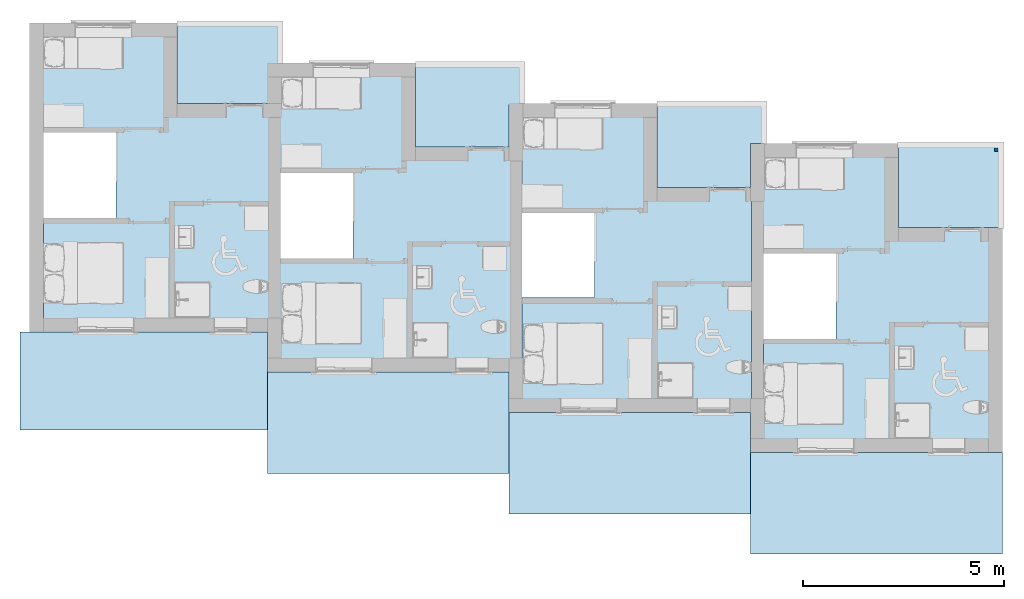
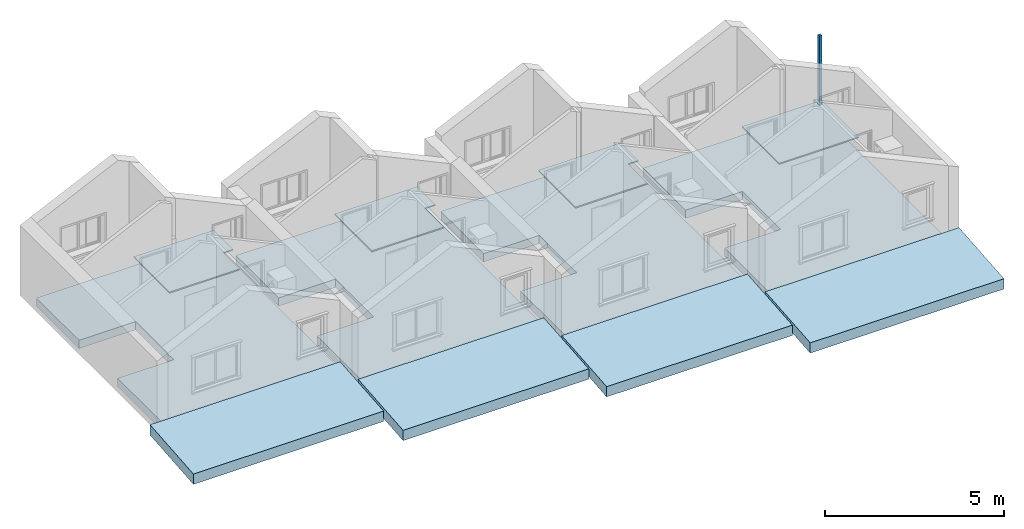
# One storey, part 1 of 44: 12 slabs, 1 column, 4 elements without a shape of their own.
"""IFC2X3 building model written with IfcOpenShell, lengths in millimetres."""

from ifc_helpers import new_model, entity, si_unit, converted_unit, direction, frame, frame_2d, origin, origin_2d_with_axis, place, context, subcontext, project, spatial, polyline, rectangle, outline, extrude, source, transform, mapped, material, layer, layer_set, layer_usage, type_object, type_shapes, element, aggregate, save


model = new_model("IFC2X3")

# Units and contexts
model_context = context("Model", 3, precision=0.01, world=origin(), true_north=direction((0.0, 1.0)))
body_context = subcontext(model_context, "Body", "Model", "MODEL_VIEW")
ifc_project = project(units=[si_unit("LENGTHUNIT", "METRE", prefix="MILLI"), si_unit("AREAUNIT", "SQUARE_METRE"), si_unit("VOLUMEUNIT", "CUBIC_METRE"), converted_unit("PLANEANGLEUNIT", "DEGREE", entity("IfcPlaneAngleMeasure", 0.017453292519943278), si_unit("PLANEANGLEUNIT", "RADIAN"), dimensions=[0, 0, 0, 0, 0, 0, 0])], contexts=[model_context])

# Site, building, storey
site_placement = place(None, origin())
site = spatial("IfcSite", under=ifc_project, at=site_placement, Name="Default", CompositionType="ELEMENT")
building_placement = place(site_placement, origin())
building = spatial("IfcBuilding", under=site, at=building_placement, CompositionType="ELEMENT")
storey_placement = place(building_placement, frame((0.0, 0.0, 2681.0)))
storey = spatial("IfcBuildingStorey", under=building, at=storey_placement, Name="Et. 2", CompositionType="ELEMENT", Elevation=2681.0)

# Column
ifc_material_1 = material(Name="Limtre - GL30c")
column_type = type_object("IfcColumnType", Name="Limtre-søyle:Limtre 90x90", PredefinedType="COLUMN", material=ifc_material_1)
shared_shape = source(origin(), body_context, "Body", "SweptSolid", [
    extrude(rectangle(XDim=90.0, YDim=90.0, at=origin_2d_with_axis()), frame((0.0, 0.0, 2681.0), z_axis=(0.0, 0.0, 1.0), x_axis=(-1.0, 0.0, 0.0)), (0.0, 0.0, 1.0), 2400.0),
])
type_shapes(column_type, [shared_shape])
column_placement = place(storey_placement, frame((34112.009586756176, 15929.180957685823, -2681.0)))
element("IfcColumn", 1, at=column_placement, inside=storey, type_object=column_type, material=ifc_material_1, Name="Limtre-søyle:Limtre 90x90", context=body_context, shape_type="MappedRepresentation", body=[
    mapped(shared_shape, transform((0.0, 0.0, 0.0), scale=1.0)),
])

# Slabs
ifc_material_2 = material(Name="Dekke - Spon")
ifc_layer_1 = layer(ifc_material_2, 22.0)
ifc_material_3 = material(Name="Dekke - Bjelke tre - Isolert")
ifc_layer_2 = layer(ifc_material_3, 223.0)
ifc_material_4 = material(Name="Dekke - Luftskikt")
ifc_layer_3 = layer(ifc_material_4, 23.0)
ifc_material_5 = material(Name="Dekke - Gips")
ifc_layer_4 = layer(ifc_material_5, 13.000000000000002)
ifc_layer_set_1 = layer_set([ifc_layer_1, ifc_layer_2, ifc_layer_3, ifc_layer_4], Name="Floor:25-Etasjeskille SpTISp-22_223_23_13")
ifc_layer_usage_1 = layer_usage(ifc_layer_set_1, "AXIS3", "POSITIVE", 0.0)
slab_type_1 = type_object("IfcSlabType", Name="Floor:25-Etasjeskille SpTISp-22_223_23_13", PredefinedType="FLOOR", material=ifc_layer_set_1)
slab_1_placement = place(storey_placement, origin())
element("IfcSlab", 2, at=slab_1_placement, inside=storey, type_object=slab_type_1, material=ifc_layer_usage_1, Name="Floor:25-Etasjeskille SpTISp-22_223_23_13", PredefinedType="FLOOR", context=body_context, shape_type="SweptSolid", body=[
    extrude(outline(polyline([(1092.75868209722, -1867.838043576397), (3481.7878521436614, -1867.838043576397), (3481.7878521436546, 3766.161956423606), (-3526.2121478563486, 3766.161956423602), (-3526.212147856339, -1854.8380435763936), (-1048.3343863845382, -1854.8380435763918), (-1048.3343863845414, -43.48586927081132), (1092.7586820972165, -43.48586927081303), (1092.75868209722, -1867.838043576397)])), frame((12291.8476303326, 15267.39310554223, 0.0), z_axis=(0.0, 0.0, -1.0), x_axis=(0.0, 1.0, 0.0)), (0.0, 0.0, 1.0), 281.0),
])
ifc_layer_usage_2 = layer_usage(ifc_layer_set_1, "AXIS3", "POSITIVE", 0.0)
slab_2_placement = place(storey_placement, origin())
element("IfcSlab", 3, at=slab_2_placement, inside=storey, type_object=slab_type_1, material=ifc_layer_usage_2, Name="Floor:25-Etasjeskille SpTISp-22_223_23_13", PredefinedType="FLOOR", context=body_context, shape_type="SweptSolid", body=[
    extrude(outline(polyline([(1089.780559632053, -1895.8852813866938), (3482.780559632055, -1895.8852813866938), (3482.780559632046, 3851.1147186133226), (-3525.2194403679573, 3851.114718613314), (-3525.219440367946, -1895.8852813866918), (-1047.3416788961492, -1895.8852813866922), (-1047.3416788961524, -59.34415583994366), (1089.7805596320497, -59.34415583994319), (1089.780559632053, -1895.8852813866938)])), frame((18193.894868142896, 14266.400398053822, 0.0), z_axis=(0.0, 0.0, -1.0), x_axis=(0.0, 1.0, 0.0)), (0.0, 0.0, 1.0), 281.0),
])
ifc_layer_usage_3 = layer_usage(ifc_layer_set_1, "AXIS3", "POSITIVE", 0.0)
slab_3_placement = place(storey_placement, origin())
element("IfcSlab", 4, at=slab_3_placement, inside=storey, type_object=slab_type_1, material=ifc_layer_usage_3, Name="Floor:25-Etasjeskille SpTISp-22_223_23_13", PredefinedType="FLOOR", context=body_context, shape_type="SweptSolid", body=[
    extrude(outline(polyline([(-3534.922438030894, -1883.2832941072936), (-1018.2326859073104, -1883.2832941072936), (-1018.2326859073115, -72.15011767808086), (1080.0775619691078, -72.15011767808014), (1080.077561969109, -1869.2832941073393), (3473.0775619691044, -1869.2832941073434), (3473.0775619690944, 3824.7167058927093), (-3534.9224380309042, 3824.716705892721), (-3534.922438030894, -1883.2832941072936)])), frame((24207.292880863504, 13276.103395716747, 0.0), z_axis=(0.0, 0.0, -1.0), x_axis=(0.0, 1.0, 0.0)), (0.0, 0.0, 1.0), 281.0),
])
ifc_layer_usage_4 = layer_usage(ifc_layer_set_1, "AXIS3", "POSITIVE", 0.0)
slab_4_placement = place(storey_placement, origin())
element("IfcSlab", 5, at=slab_4_placement, inside=storey, type_object=slab_type_1, material=ifc_layer_usage_4, Name="Floor:25-Etasjeskille SpTISp-22_223_23_13", PredefinedType="FLOOR", context=body_context, shape_type="SweptSolid", body=[
    extrude(outline(polyline([(1096.2805596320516, -1874.338043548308), (3476.28055963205, -1874.338043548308), (3476.2805596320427, 3759.6619564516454), (-3531.7194403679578, 3759.6619564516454), (-3531.71944036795, -1848.33804354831), (-1040.8416788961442, -1848.3380435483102), (-1040.8416788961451, -36.98586935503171), (1096.2805596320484, -36.985869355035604), (1096.2805596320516, -1874.338043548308)])), frame((30172.347630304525, 12272.900398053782, 0.0), z_axis=(0.0, 0.0, -1.0), x_axis=(0.0, 1.0, 0.0)), (0.0, 0.0, 1.0), 281.0),
])

# Roof, slab
ifc_material_6 = material(Name="Tak - Takstein - Sort")
ifc_layer_5 = layer(ifc_material_6, 30.0)
ifc_material_7 = material(Name="Default Roof")
ifc_layer_6 = layer(ifc_material_7, 21.0)
ifc_layer_7 = layer(ifc_material_7, 36.0)
ifc_material_8 = material(Name="Tak - Tre - Sperre - Isolert")
ifc_layer_8 = layer(ifc_material_8, 250.00000000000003)
ifc_material_9 = material(Name="Tak - Gips - Hvit")
ifc_layer_9 = layer(ifc_material_9, 13.000000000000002)
ifc_layer_set_2 = layer_set([ifc_layer_5, ifc_layer_6, ifc_layer_7, ifc_layer_8, ifc_layer_9], Name="Basic Roof:Taksperre, Steintekking Sort")
roof_1_placement = place(storey_placement, frame((9859.009586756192, 8976.18095768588, -243.7443317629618)))
roof_1 = element("IfcRoof", 6, at=roof_1_placement, inside=storey, material=ifc_layer_set_2, Name="Basic Roof:Taksperre, Steintekking Sort", ShapeType="NOTDEFINED")
slab_type_2 = type_object("IfcSlabType", Name="Basic Roof:Taksperre, Steintekking Sort", PredefinedType="ROOF")
slab_5_placement = place(roof_1_placement, origin())
slab_5 = element("IfcSlab", 7, at=slab_5_placement, type_object=slab_type_2, material=ifc_layer_set_2, Name="Basic Roof:Taksperre, Steintekking Sort", PredefinedType="ROOF", context=body_context, shape_type="SweptSolid", body=[
    extrude(rectangle(XDim=6146.000000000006, YDim=2441.2898449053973, at=frame_2d((-2.2737367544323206e-12, 5.684341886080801e-13), x_axis=(1.0, 0.0))), frame((3073.0, 1216.0, 106.38621484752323), z_axis=(0.0, -0.08715574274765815, 0.9961946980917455), x_axis=(1.0, 0.0, 0.0)), (0.0, 0.08715574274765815, 0.9961946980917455), 351.33694314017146),
])
aggregate(roof_1, [slab_5])

roof_2_placement = place(storey_placement, frame((16006.50958675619, 7889.180957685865, -243.7443317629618)))
roof_2 = element("IfcRoof", 8, at=roof_2_placement, inside=storey, material=ifc_layer_set_2, Name="Basic Roof:Taksperre, Steintekking Sort", ShapeType="NOTDEFINED")
slab_6_placement = place(roof_2_placement, origin())
slab_6 = element("IfcSlab", 9, at=slab_6_placement, type_object=slab_type_2, material=ifc_layer_set_2, Name="Basic Roof:Taksperre, Steintekking Sort", PredefinedType="ROOF", context=body_context, shape_type="SweptSolid", body=[
    extrude(rectangle(XDim=5998.500000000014, YDim=2528.622170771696, at=frame_2d((0.0, -5.4569682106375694e-12), x_axis=(1.0, 0.0))), frame((2999.250000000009, 1259.500000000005, 110.19197171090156), z_axis=(0.0, -0.08715574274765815, 0.9961946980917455), x_axis=(1.0, 0.0, 0.0)), (0.0, 0.08715574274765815, 0.9961946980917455), 351.33694314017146),
])
aggregate(roof_2, [slab_6])

roof_3_placement = place(storey_placement, frame((22005.00958675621, 6889.180957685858, -243.7443317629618)))
roof_3 = element("IfcRoof", 10, at=roof_3_placement, inside=storey, material=ifc_layer_set_2, Name="Basic Roof:Taksperre, Steintekking Sort", ShapeType="NOTDEFINED")
slab_7_placement = place(roof_3_placement, origin())
slab_7 = element("IfcSlab", 11, at=slab_7_placement, type_object=slab_type_2, material=ifc_layer_set_2, Name="Basic Roof:Taksperre, Steintekking Sort", PredefinedType="ROOF", context=body_context, shape_type="SweptSolid", body=[
    extrude(rectangle(XDim=6000.000000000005, YDim=2528.6221707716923, at=origin_2d_with_axis()), frame((3000.0, 1259.5000000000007, 110.19197171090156), z_axis=(0.0, -0.08715574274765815, 0.9961946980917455), x_axis=(1.0, 0.0, 0.0)), (0.0, 0.08715574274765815, 0.9961946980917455), 351.33694314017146),
])
aggregate(roof_3, [slab_7])

roof_4_placement = place(storey_placement, frame((28005.009586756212, 5889.180957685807, -243.7443317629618)))
roof_4 = element("IfcRoof", 12, at=roof_4_placement, inside=storey, material=ifc_layer_set_2, Name="Basic Roof:Taksperre, Steintekking Sort", ShapeType="NOTDEFINED")
slab_8_placement = place(roof_4_placement, origin())
slab_8 = element("IfcSlab", 13, at=slab_8_placement, type_object=slab_type_2, material=ifc_layer_set_2, Name="Basic Roof:Taksperre, Steintekking Sort", PredefinedType="ROOF", context=body_context, shape_type="SweptSolid", body=[
    extrude(rectangle(XDim=6259.9999999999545, YDim=2528.622170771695, at=origin_2d_with_axis()), frame((3130.0, 1259.5000000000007, 110.19197171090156), z_axis=(0.0, -0.08715574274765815, 0.9961946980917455), x_axis=(1.0, 0.0, 0.0)), (0.0, 0.08715574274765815, 0.9961946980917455), 351.33694314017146),
])
aggregate(roof_4, [slab_8])

# Slabs
ifc_material_10 = material(Name="Dekke - Terrassebord")
ifc_layer_10 = layer(ifc_material_10, 28.0)
ifc_layer_11 = layer(ifc_material_2, 10.0)
ifc_layer_set_3 = layer_set([ifc_layer_10, ifc_layer_11], Name="Floor:25-TbTU-22_balkong")
ifc_layer_usage_5 = layer_usage(ifc_layer_set_3, "AXIS3", "POSITIVE", 0.0)
slab_type_3 = type_object("IfcSlabType", Name="Floor:25-TbTU-22_balkong", PredefinedType="FLOOR", material=ifc_layer_set_3)
slab_9_placement = place(storey_placement, origin())
element("IfcSlab", 14, at=slab_9_placement, inside=storey, type_object=slab_type_3, material=ifc_layer_usage_5, Name="Floor:25-TbTU-22_balkong", PredefinedType="FLOOR", context=body_context, shape_type="SweptSolid", body=[
    extrude(outline(polyline([(-971.0, -1617.6666666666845), (1029.0, -1617.6666666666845), (1029.0, 968.3333333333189), (-58.0, 968.3333333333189), (-58.0, 649.333333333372), (-971.0, 649.333333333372), (-971.0, -1617.6666666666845)])), frame((15382.676253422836, 18053.18095768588, 40.0), z_axis=(0.0, 0.0, -1.0), x_axis=(0.0, 1.0, 0.0)), (0.0, 0.0, 1.0), 38.00000000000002),
])
ifc_layer_usage_6 = layer_usage(ifc_layer_set_3, "AXIS3", "POSITIVE", 0.0)
slab_10_placement = place(storey_placement, origin())
element("IfcSlab", 15, at=slab_10_placement, inside=storey, type_object=slab_type_3, material=ifc_layer_usage_6, Name="Floor:25-TbTU-22_balkong", PredefinedType="FLOOR", context=body_context, shape_type="SweptSolid", body=[
    extrude(outline(polyline([(-1046.6666666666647, -1664.3333333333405), (1033.3333333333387, -1664.3333333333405), (1033.33333333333, 1001.6666666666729), (13.333333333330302, 1001.6666666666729), (13.333333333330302, 662.6666666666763), (-1046.6666666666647, 662.6666666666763), (-1046.6666666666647, -1664.3333333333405)])), frame((21342.342920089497, 17041.847624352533, 40.0), z_axis=(0.0, 0.0, -1.0), x_axis=(0.0, 1.0, 0.0)), (0.0, 0.0, 1.0), 38.00000000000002),
])
ifc_layer_usage_7 = layer_usage(ifc_layer_set_3, "AXIS3", "POSITIVE", 0.0)
slab_11_placement = place(storey_placement, origin())
element("IfcSlab", 16, at=slab_11_placement, inside=storey, type_object=slab_type_3, material=ifc_layer_usage_7, Name="Floor:25-TbTU-22_balkong", PredefinedType="FLOOR", context=body_context, shape_type="SweptSolid", body=[
    extrude(outline(polyline([(-1054.6666666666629, -1662.6666666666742), (1022.3333333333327, -1662.6666666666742), (1022.3333333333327, 998.3333333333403), (32.33333333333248, 998.3333333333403), (32.33333333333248, 664.3333333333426), (-1054.6666666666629, 664.3333333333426), (-1054.6666666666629, -1662.6666666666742)])), frame((27340.676253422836, 16049.847624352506, 40.0), z_axis=(0.0, 0.0, -1.0), x_axis=(0.0, 1.0, 0.0)), (0.0, 0.0, 1.0), 38.00000000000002),
])
ifc_layer_usage_8 = layer_usage(ifc_layer_set_3, "AXIS3", "POSITIVE", 0.0)
slab_12_placement = place(storey_placement, origin())
element("IfcSlab", 17, at=slab_12_placement, inside=storey, type_object=slab_type_3, material=ifc_layer_usage_8, Name="Floor:25-TbTU-22_balkong", PredefinedType="FLOOR", context=body_context, shape_type="SweptSolid", body=[
    extrude(rectangle(XDim=2074.0000000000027, YDim=2575.000000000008, at=frame_2d((1.1368683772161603e-12, 2.1600499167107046e-12), x_axis=(1.0, 0.0))), frame((32965.50958675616, 15032.180957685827, 40.0), z_axis=(0.0, 0.0, -1.0), x_axis=(0.0, 1.0, 0.0)), (0.0, 0.0, 1.0), 38.00000000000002),
])

save(model, "model.ifc")
